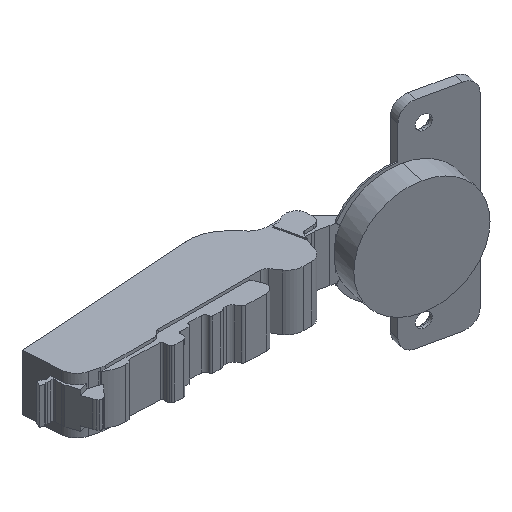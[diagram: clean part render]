
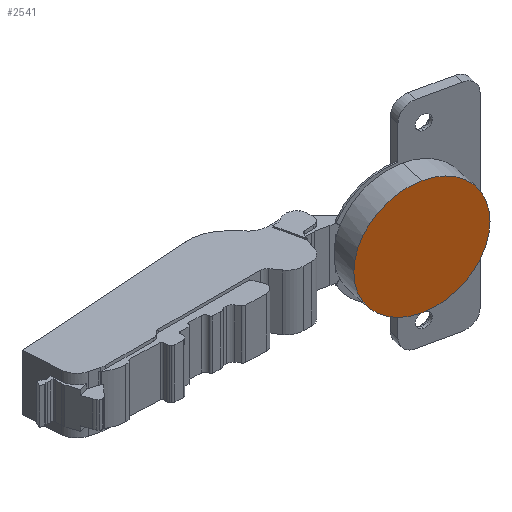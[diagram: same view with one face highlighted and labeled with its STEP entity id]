
A CAD part, isometric view. The second image highlights one B-rep face of the part: STEP entity #2541.
In plain terms, the highlighted planar face has unit normal (-0.212, -0.977, 0).
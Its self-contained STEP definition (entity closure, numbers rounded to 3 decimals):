
#531 = EDGE_CURVE ( 'NONE', #2916, #804, #3999, .T. ) ;
#804 = VERTEX_POINT ( 'NONE', #2451 ) ;
#1317 = DIRECTION ( 'NONE',  ( 0., 0., 1. ) ) ;
#1494 = CARTESIAN_POINT ( 'NONE',  ( 18.081, -19.016, -17.4 ) ) ;
#1645 = EDGE_CURVE ( 'NONE', #804, #2916, #2619, .T. ) ;
#1768 = AXIS2_PLACEMENT_3D ( 'NONE', #2626, #4664, #6049 ) ;
#1779 = ORIENTED_EDGE ( 'NONE', *, *, #531, .T. ) ;
#1941 = PLANE ( 'NONE',  #2532 ) ;
#2451 = CARTESIAN_POINT ( 'NONE',  ( 18.081, -19.016, 17.4 ) ) ;
#2532 = AXIS2_PLACEMENT_3D ( 'NONE', #3980, #4847, #1317 ) ;
#2541 = ADVANCED_FACE ( 'NONE', ( #6496 ), #1941, .F. ) ;
#2619 = CIRCLE ( 'NONE', #3167, 17.4 ) ;
#2626 = CARTESIAN_POINT ( 'NONE',  ( 18.081, -19.016, 0. ) ) ;
#2916 = VERTEX_POINT ( 'NONE', #1494 ) ;
#3142 = ORIENTED_EDGE ( 'NONE', *, *, #1645, .T. ) ;
#3167 = AXIS2_PLACEMENT_3D ( 'NONE', #4646, #4683, #6169 ) ;
#3980 = CARTESIAN_POINT ( 'NONE',  ( 28.799, -21.336, -7.7 ) ) ;
#3999 = CIRCLE ( 'NONE', #1768, 17.4 ) ;
#4646 = CARTESIAN_POINT ( 'NONE',  ( 18.081, -19.016, 0. ) ) ;
#4664 = DIRECTION ( 'NONE',  ( -0.212, -0.977, 0. ) ) ;
#4683 = DIRECTION ( 'NONE',  ( -0.212, -0.977, 0. ) ) ;
#4847 = DIRECTION ( 'NONE',  ( 0.212, 0.977, 0. ) ) ;
#6049 = DIRECTION ( 'NONE',  ( 0.977, -0.212, 0. ) ) ;
#6169 = DIRECTION ( 'NONE',  ( 0.977, -0.212, 0. ) ) ;
#6291 = EDGE_LOOP ( 'NONE', ( #3142, #1779 ) ) ;
#6496 = FACE_OUTER_BOUND ( 'NONE', #6291, .T. ) ;
